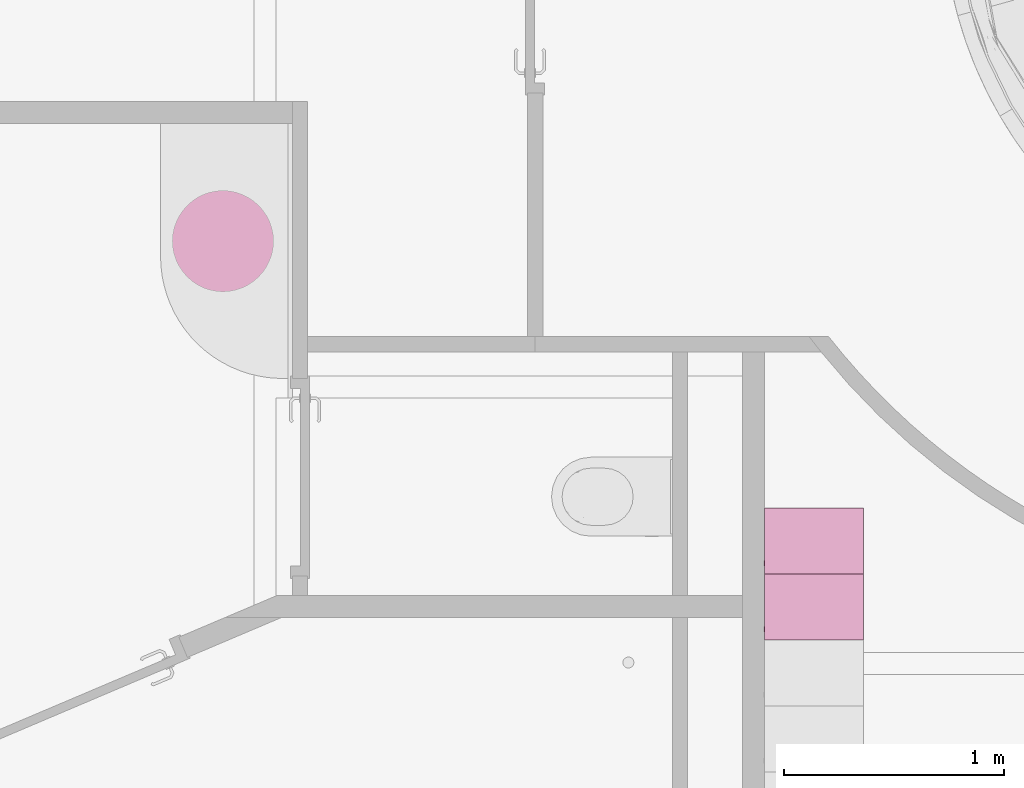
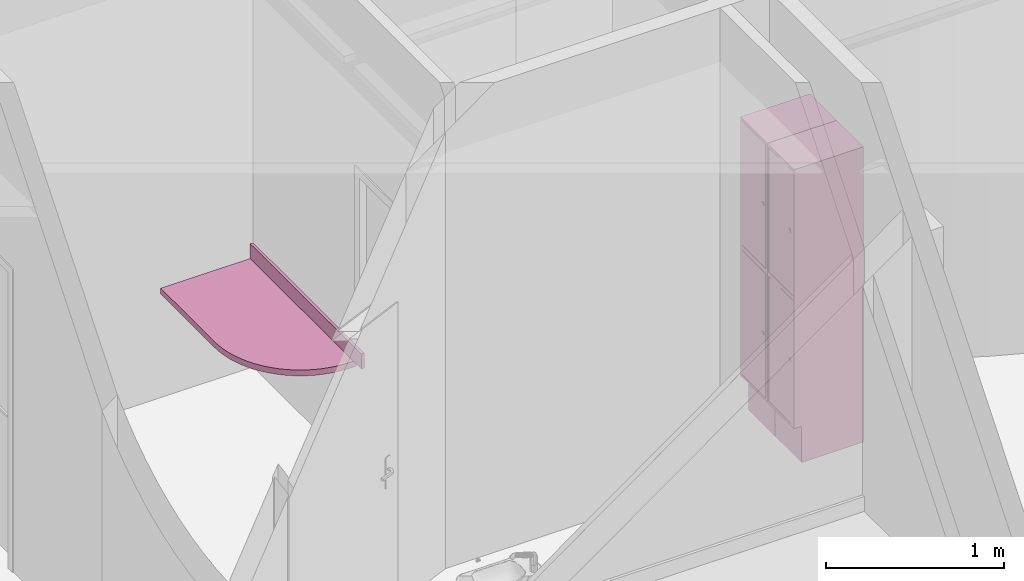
# One storey, part 118 of 137: 3 furnishings.
"""IFC2X3 building model written with IfcOpenShell, lengths in centimetres."""

from ifc_helpers import new_model, entity, si_unit, converted_unit, derived_unit, direction, frame, frame_2d, origin, place, context, subcontext, project, spatial, polyline, circle_curve, parameter, trimmed, segment, composite_curve, rectangle, outline, extrude, faceted_brep, source, transform, mapped, material, material_list, type_object, type_shapes, element, save


model = new_model("IFC2X3")

# Units and contexts
model_context = context("Model", 3, precision=0.001, world=origin(), true_north=direction((6.12303176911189e-17, 1.0)))
body_context = subcontext(model_context, "Body", "Model", "MODEL_VIEW")
ifc_project = project(units=[si_unit("LENGTHUNIT", "METRE", prefix="CENTI"), si_unit("AREAUNIT", "SQUARE_METRE"), si_unit("VOLUMEUNIT", "CUBIC_METRE"), converted_unit("PLANEANGLEUNIT", "DEGREE", entity("IfcRatioMeasure", 0.0174532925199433), si_unit("PLANEANGLEUNIT", "RADIAN"), dimensions=[0, 0, 0, 0, 0, 0, 0]), si_unit("MASSUNIT", "GRAM", prefix="KILO"), si_unit("TIMEUNIT", "SECOND"), si_unit("FREQUENCYUNIT", "HERTZ"), si_unit("THERMODYNAMICTEMPERATUREUNIT", "DEGREE_CELSIUS"), derived_unit("THERMALTRANSMITTANCEUNIT", [(si_unit("MASSUNIT", "GRAM", prefix="KILO"), 1), (si_unit("THERMODYNAMICTEMPERATUREUNIT", "KELVIN"), -1), (si_unit("TIMEUNIT", "SECOND"), -3)]), derived_unit("VOLUMETRICFLOWRATEUNIT", [(si_unit("LENGTHUNIT", "METRE"), 3), (si_unit("TIMEUNIT", "SECOND"), -1)]), si_unit("ELECTRICCURRENTUNIT", "AMPERE"), si_unit("ELECTRICVOLTAGEUNIT", "VOLT"), si_unit("POWERUNIT", "WATT"), si_unit("FORCEUNIT", "NEWTON", prefix="KILO"), si_unit("ILLUMINANCEUNIT", "LUX"), si_unit("LUMINOUSFLUXUNIT", "LUMEN"), si_unit("LUMINOUSINTENSITYUNIT", "CANDELA"), derived_unit("USERDEFINED", [(si_unit("MASSUNIT", "GRAM", prefix="KILO"), -1), (si_unit("LENGTHUNIT", "METRE"), -2), (si_unit("TIMEUNIT", "SECOND"), 3), (si_unit("LUMINOUSFLUXUNIT", "LUMEN"), 1)]), derived_unit("LINEARVELOCITYUNIT", [(si_unit("LENGTHUNIT", "METRE"), 1), (si_unit("TIMEUNIT", "SECOND"), -1)]), si_unit("PRESSUREUNIT", "PASCAL"), derived_unit("USERDEFINED", [(si_unit("LENGTHUNIT", "METRE"), -2), (si_unit("MASSUNIT", "GRAM", prefix="KILO"), 1), (si_unit("TIMEUNIT", "SECOND"), -2)])], contexts=[model_context])

# Site, building, storey, space
site_placement = place(None, frame((8.62739174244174, -249.285249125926, 0.0)))
site = spatial("IfcSite", under=ifc_project, at=site_placement, Name="Default", CompositionType="ELEMENT")
building_placement = place(site_placement, origin())
building = spatial("IfcBuilding", under=site, at=building_placement, CompositionType="ELEMENT")
storey_placement = place(building_placement, origin())
storey = spatial("IfcBuildingStorey", under=building, at=storey_placement, Name="RDC", CompositionType="ELEMENT", Elevation=-8.82465566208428e-11)
space_1_placement = place(storey_placement, origin())
space_1 = spatial("IfcSpace", under=storey, at=space_1_placement, Name="043", CompositionType="ELEMENT", InteriorOrExteriorSpace="INTERNAL")

# Furnishings
ifc_material_1 = material(Name="Peinture - Grise")
ifc_material_2 = material(Name="Peinture - Blanc")
ifc_material_list_1 = material_list([ifc_material_1, ifc_material_2])
ifc_material_list_2 = material_list([ifc_material_1, ifc_material_2])
furniture_type_1 = type_object("IfcFurnitureType", Name="Casiers 1x2", AssemblyPlace="NOTDEFINED", material=ifc_material_list_2)
shared_shape_1 = source(origin(), body_context, "Body", "Brep", [
    faceted_brep([(5.28593426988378, 45.0, 70.5824072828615), (4.96241046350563, 45.0, 70.6250000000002), (4.63888665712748, 45.0, 70.5824072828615), (4.33741046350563, 45.0, 70.4575317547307), (4.07852698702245, 45.0, 70.2588834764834), (3.87987870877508, 45.0, 70.0), (3.75500318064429, 45.0, 69.6985238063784), (3.71241046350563, 45.0, 69.3750000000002), (3.75500318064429, 45.0, 69.0514761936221), (3.87987870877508, 45.0, 68.7500000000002), (4.07852698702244, 45.0, 68.491116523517), (4.33741046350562, 45.0, 68.2924682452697), (4.63888665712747, 45.0, 68.1675927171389), (4.96241046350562, 45.0, 68.1250000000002), (5.28593426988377, 45.0, 68.1675927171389), (5.58741046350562, 45.0, 68.2924682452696), (5.84629393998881, 45.0, 68.491116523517), (6.04494221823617, 45.0, 68.7500000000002), (6.16981774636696, 45.0, 69.051476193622), (6.21241046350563, 45.0, 69.3750000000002), (6.16981774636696, 45.0, 69.6985238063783), (6.04494221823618, 45.0, 70.0), (5.84629393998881, 45.0, 70.2588834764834), (5.58741046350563, 45.0, 70.4575317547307), (5.84629393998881, 45.3000000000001, 68.491116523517), (5.58741046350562, 45.3000000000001, 68.2924682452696), (5.28593426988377, 45.3000000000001, 68.1675927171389), (4.96241046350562, 45.3000000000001, 68.1250000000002), (4.63888665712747, 45.3000000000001, 68.1675927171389), (4.33741046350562, 45.3000000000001, 68.2924682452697), (4.07852698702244, 45.3000000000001, 68.491116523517), (3.87987870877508, 45.3000000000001, 68.7500000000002), (3.75500318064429, 45.3000000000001, 69.0514761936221), (3.71241046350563, 45.3000000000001, 69.3750000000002), (3.75500318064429, 45.3000000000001, 69.6985238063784), (3.87987870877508, 45.3000000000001, 70.0), (4.07852698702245, 45.3000000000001, 70.2588834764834), (4.33741046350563, 45.3000000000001, 70.4575317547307), (4.63888665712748, 45.3000000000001, 70.5824072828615), (4.96241046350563, 45.3000000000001, 70.6250000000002), (5.28593426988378, 45.3000000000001, 70.5824072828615), (5.58741046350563, 45.3000000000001, 70.4575317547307), (5.84629393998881, 45.3000000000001, 70.2588834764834), (6.04494221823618, 45.3000000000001, 70.0), (6.16981774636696, 45.3000000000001, 69.6985238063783), (6.21241046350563, 45.3000000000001, 69.3750000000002), (6.16981774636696, 45.3000000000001, 69.051476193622), (6.04494221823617, 45.3000000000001, 68.7500000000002)], [[[0, 1, 2, 3, 4, 5, 6, 7, 8, 9, 10, 11, 12, 13, 14, 15, 16, 17, 18, 19, 20, 21, 22, 23]], [[24, 25, 26, 27, 28, 29, 30, 31, 32, 33, 34, 35, 36, 37, 38, 39, 40, 41, 42, 43, 44, 45, 46, 47]], [[7, 33, 32, 8]], [[8, 32, 31, 9]], [[11, 10, 30, 29]], [[30, 10, 9, 31]], [[12, 11, 29, 28]], [[12, 28, 27, 13]], [[13, 27, 26, 14]], [[14, 26, 25, 15]], [[17, 16, 24, 47]], [[24, 16, 15, 25]], [[18, 17, 47, 46]], [[18, 46, 45, 19]], [[19, 45, 44, 20]], [[20, 44, 43, 21]], [[23, 22, 42, 41]], [[42, 22, 21, 43]], [[0, 23, 41, 40]], [[0, 40, 39, 1]], [[1, 39, 38, 2]], [[2, 38, 37, 3]], [[5, 4, 36, 35]], [[36, 4, 3, 37]], [[6, 5, 35, 34]], [[6, 34, 33, 7]]]),
    faceted_brep([(5.28593426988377, 45.3000000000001, 156.917592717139), (4.96241046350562, 45.3000000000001, 156.875), (4.63888665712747, 45.3000000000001, 156.917592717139), (4.33741046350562, 45.3000000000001, 157.042468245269), (4.07852698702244, 45.3000000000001, 157.241116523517), (3.87987870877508, 45.3000000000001, 157.5), (3.75500318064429, 45.3000000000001, 157.801476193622), (3.71241046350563, 45.3000000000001, 158.125), (3.75500318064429, 45.3000000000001, 158.448523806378), (3.87987870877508, 45.3000000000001, 158.75), (4.07852698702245, 45.3000000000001, 159.008883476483), (4.33741046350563, 45.3000000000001, 159.207531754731), (4.63888665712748, 45.3000000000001, 159.332407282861), (4.96241046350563, 45.3000000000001, 159.375), (5.28593426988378, 45.3000000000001, 159.332407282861), (5.58741046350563, 45.3000000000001, 159.207531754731), (5.84629393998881, 45.3000000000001, 159.008883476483), (6.04494221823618, 45.3000000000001, 158.75), (6.16981774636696, 45.3000000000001, 158.448523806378), (6.21241046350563, 45.3000000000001, 158.125), (6.16981774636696, 45.3000000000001, 157.801476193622), (6.04494221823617, 45.3000000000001, 157.5), (5.84629393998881, 45.3000000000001, 157.241116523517), (5.58741046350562, 45.3000000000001, 157.042468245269), (5.28593426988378, 45.0, 159.332407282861), (4.96241046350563, 45.0, 159.375), (4.63888665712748, 45.0, 159.332407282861), (4.33741046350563, 45.0, 159.207531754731), (4.07852698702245, 45.0, 159.008883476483), (3.87987870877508, 45.0, 158.75), (3.75500318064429, 45.0, 158.448523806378), (3.71241046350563, 45.0, 158.125), (3.75500318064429, 45.0, 157.801476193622), (3.87987870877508, 45.0, 157.5), (4.07852698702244, 45.0, 157.241116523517), (4.33741046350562, 45.0, 157.042468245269), (4.63888665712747, 45.0, 156.917592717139), (4.96241046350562, 45.0, 156.875), (5.28593426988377, 45.0, 156.917592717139), (5.58741046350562, 45.0, 157.042468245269), (5.84629393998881, 45.0, 157.241116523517), (6.04494221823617, 45.0, 157.5), (6.16981774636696, 45.0, 157.801476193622), (6.21241046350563, 45.0, 158.125), (6.16981774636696, 45.0, 158.448523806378), (6.04494221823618, 45.0, 158.75), (5.84629393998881, 45.0, 159.008883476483), (5.58741046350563, 45.0, 159.207531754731)], [[[0, 1, 2, 3, 4, 5, 6, 7, 8, 9, 10, 11, 12, 13, 14, 15, 16, 17, 18, 19, 20, 21, 22, 23]], [[24, 25, 26, 27, 28, 29, 30, 31, 32, 33, 34, 35, 36, 37, 38, 39, 40, 41, 42, 43, 44, 45, 46, 47]], [[31, 7, 6, 32]], [[32, 6, 5, 33]], [[35, 34, 4, 3]], [[4, 34, 33, 5]], [[36, 35, 3, 2]], [[36, 2, 1, 37]], [[37, 1, 0, 38]], [[38, 0, 23, 39]], [[41, 40, 22, 21]], [[22, 40, 39, 23]], [[42, 41, 21, 20]], [[42, 20, 19, 43]], [[43, 19, 18, 44]], [[44, 18, 17, 45]], [[47, 46, 16, 15]], [[16, 46, 45, 17]], [[24, 47, 15, 14]], [[24, 14, 13, 25]], [[25, 13, 12, 26]], [[26, 12, 11, 27]], [[29, 28, 10, 9]], [[10, 28, 27, 11]], [[30, 29, 9, 8]], [[30, 8, 7, 31]]]),
    faceted_brep([(30.0, 0.0, 25.0), (30.0, 40.0, 25.0), (0.0, 40.0, 25.0), (0.0, 0.0, 25.0), (30.0, 0.0, 0.0), (0.0, 0.0, 0.0), (0.0, 40.0, 0.0), (30.0, 40.0, 0.0)], [[[0, 1, 2, 3]], [[4, 5, 6, 7]], [[3, 5, 4, 0]], [[2, 6, 5, 3]], [[1, 7, 6, 2]], [[0, 4, 7, 1]]]),
    faceted_brep([(28.1999999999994, 45.0, 200.7), (28.1999999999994, 45.0, 115.55), (1.79999999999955, 45.0, 115.55), (1.79999999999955, 45.0, 200.7), (28.1999999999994, 43.5000000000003, 200.7), (1.79999999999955, 43.5000000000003, 200.7), (1.79999999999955, 43.5000000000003, 115.55), (28.1999999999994, 43.5000000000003, 115.55)], [[[0, 1, 2, 3]], [[4, 5, 6, 7]], [[3, 5, 4, 0]], [[2, 6, 5, 3]], [[1, 7, 6, 2]], [[0, 4, 7, 1]]]),
    faceted_brep([(1.79999999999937, 45.0, 111.95), (1.79999999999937, 43.5000000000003, 111.95), (28.1999999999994, 43.5000000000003, 111.95), (28.1999999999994, 45.0, 111.95), (1.79999999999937, 45.0, 26.8000000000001), (1.79999999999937, 43.5000000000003, 26.8000000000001), (28.1999999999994, 45.0, 26.8000000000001), (28.1999999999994, 43.5000000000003, 26.8000000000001)], [[[0, 1, 2, 3]], [[4, 5, 1, 0]], [[6, 7, 5, 4]], [[3, 2, 7, 6]], [[2, 1, 5, 7]], [[3, 6, 4, 0]]]),
    faceted_brep([(30.0, 45.0, 25.0), (30.0, 45.0, 202.5), (30.0, 0.0, 202.5), (30.0, 0.0, 25.0), (0.0, 45.0, 25.0), (0.0, 0.0, 25.0), (0.0, 0.0, 202.5), (0.0, 45.0, 202.5), (28.4999999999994, 45.0, 26.5), (28.4999999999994, 45.0, 112.25), (1.49999999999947, 45.0, 112.25), (1.49999999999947, 45.0, 26.5), (28.4999999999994, 45.0, 115.25), (28.4999999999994, 45.0, 201.0), (1.49999999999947, 45.0, 201.0), (1.49999999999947, 45.0, 115.25), (28.4999999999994, 1.50000000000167, 26.5), (1.49999999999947, 1.50000000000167, 26.5), (1.49999999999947, 1.50000000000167, 112.25), (28.4999999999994, 1.50000000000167, 112.25), (28.4999999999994, 1.50000000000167, 115.25), (1.49999999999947, 1.50000000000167, 115.25), (1.49999999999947, 1.50000000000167, 201.0), (28.4999999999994, 1.50000000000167, 201.0)], [[[0, 1, 2, 3]], [[4, 5, 6, 7]], [[3, 5, 4, 0]], [[2, 6, 5, 3]], [[1, 7, 6, 2]], [[0, 4, 7, 1], [8, 9, 10, 11], [12, 13, 14, 15]], [[16, 17, 18, 19]], [[16, 8, 11, 17]], [[17, 11, 10, 18]], [[18, 10, 9, 19]], [[19, 9, 8, 16]], [[20, 12, 15, 21]], [[21, 15, 14, 22]], [[22, 14, 13, 23]], [[23, 13, 12, 20]], [[20, 21, 22, 23]]]),
])
type_shapes(furniture_type_1, [shared_shape_1])
furnishing_1_placement = place(space_1_placement, frame((2811.90482779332, 450.900207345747, 0.0), z_axis=(0.0, 0.0, 1.0), x_axis=(0.0, 1.0, 0.0)))
element("IfcFurnishingElement", 1, at=furnishing_1_placement, inside=space_1, type_object=furniture_type_1, material=ifc_material_list_1, Name="Casiers 1x2:Casiers 1x2", ObjectType="Casiers 1x2", context=body_context, shape_type="MappedRepresentation", body=[
    mapped(shared_shape_1, transform((0.0, 0.0, 0.0), scale=1.0)),
])
ifc_material_list_3 = material_list([ifc_material_1, ifc_material_2])
furnishing_2_placement = place(space_1_placement, frame((2811.90482779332, 420.900207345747, 0.0), z_axis=(0.0, 0.0, 1.0), x_axis=(0.0, 1.0, 0.0)))
element("IfcFurnishingElement", 2, at=furnishing_2_placement, inside=space_1, type_object=furniture_type_1, material=ifc_material_list_3, Name="Casiers 1x2:Casiers 1x2", ObjectType="Casiers 1x2", context=body_context, shape_type="MappedRepresentation", body=[
    mapped(shared_shape_1, transform((0.0, 0.0, 0.0), scale=1.0)),
])

# Space
space_2_placement = place(storey_placement, origin())
space_2 = spatial("IfcSpace", under=storey, at=space_2_placement, Name="084", CompositionType="ELEMENT", InteriorOrExteriorSpace="INTERNAL")

# Furnishing
ifc_material_3 = material(Name="Bois - Mélaminé bleu")
furniture_type_2 = type_object("IfcFurnitureType", Name="P-600 mm 2", AssemblyPlace="NOTDEFINED", material=ifc_material_3)
shared_shape_2 = source(origin(), body_context, "Body", "SweptSolid", [
    extrude(outline(composite_curve([segment(polyline([(-29.0474999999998, -44.1613704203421), (29.0474999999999, -44.1613704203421)]), True, "CONTINUOUS"), segment(polyline([(29.0474999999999, -44.1613704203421), (29.0474999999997, 16.39198968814)]), True, "CONTINUOUS"), segment(trimmed(circle_curve(frame_2d((-26.5474999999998, 16.3919896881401), x_axis=(0.0, -1.0)), 55.5949999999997), [parameter(90.0000000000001)], [parameter(182.577349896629)], True, "PARAMETER"), True, "CONTINUOUS"), segment(polyline([(-29.0475, 71.930751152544), (-29.0474999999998, -44.1613704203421)]), True, "CONTINUOUS")], self_intersect=False)), frame((-88.5848590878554, -30.9525000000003, 71.0), z_axis=(0.0, 0.0, 1.0), x_axis=(0.0, -1.0, 0.0)), (0.0, 0.0, 1.0), 4.00000000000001),
    extrude(outline(composite_curve([segment(polyline([(-24.3810000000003, -58.5475206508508), (35.6189999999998, -58.5475206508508)]), True, "CONTINUOUS"), segment(polyline([(35.6189999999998, -58.5475206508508), (35.6190000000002, 2.00583945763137)]), True, "CONTINUOUS"), segment(trimmed(circle_curve(frame_2d((-19.9759999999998, 2.00583945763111), x_axis=(0.0, -1.0)), 55.5949999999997), [parameter(90.0000000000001)], [parameter(182.577349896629)], True, "PARAMETER"), True, "CONTINUOUS"), segment(polyline([(-22.4759999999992, 57.5446009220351), (-24.3810000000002, 57.5446009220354)]), True, "CONTINUOUS"), segment(polyline([(-24.3810000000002, 57.5446009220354), (-24.3810000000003, -58.5475206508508)]), True, "CONTINUOUS")], self_intersect=False)), frame((-74.1987088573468, -24.3810000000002, 71.0), z_axis=(0.0, 0.0, 1.0), x_axis=(0.0, -1.0, 0.0)), (0.0, 0.0, 1.0), 4.00000000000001),
    extrude(rectangle(XDim=1.90500000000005, YDim=125.0, at=frame_2d((0.0, 1.06581410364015e-14), x_axis=(1.0, 0.0))), frame((-70.2462295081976, -0.952500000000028, 75.0), z_axis=(0.0, 0.0, 1.0), x_axis=(0.0, -1.0, 0.0)), (0.0, 0.0, 1.0), 10.1600000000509),
])
type_shapes(furniture_type_2, [shared_shape_2])
furnishing_3_placement = place(space_2_placement, frame((2551.90482781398, 523.382338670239, 0.0), z_axis=(0.0, 0.0, 1.0), x_axis=(0.0, -1.0, 0.0)))
element("IfcFurnishingElement", 3, at=furnishing_3_placement, inside=space_2, type_object=furniture_type_2, material=ifc_material_3, Name="Plan de travail - Emplacement rond pour lavabo1:P-600 mm 2", ObjectType="P-600 mm 2", context=body_context, shape_type="MappedRepresentation", body=[
    mapped(shared_shape_2, transform((0.0, 0.0, 0.0), scale=1.0)),
])

save(model, "model.ifc")
